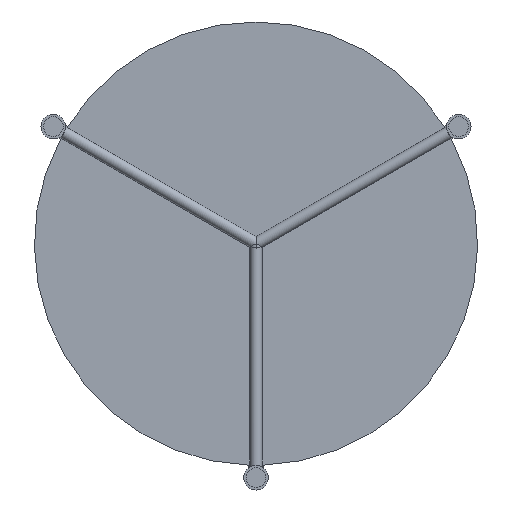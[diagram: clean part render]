
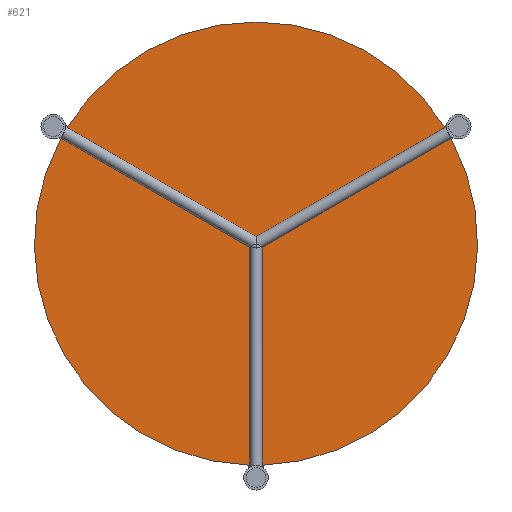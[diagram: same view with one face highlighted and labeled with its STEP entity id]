
A CAD part, front view. The second image highlights one B-rep face of the part: STEP entity #621.
In plain terms, the highlighted planar face has unit normal (0, -1, 0).
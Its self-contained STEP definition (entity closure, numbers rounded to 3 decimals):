
#41 = CARTESIAN_POINT ( 'NONE',  ( 6., 299., -179.9 ) ) ;
#67 = AXIS2_PLACEMENT_3D ( 'NONE', #803, #1219, #3503 ) ;
#222 = VERTEX_POINT ( 'NONE', #3713 ) ;
#263 = ORIENTED_EDGE ( 'NONE', *, *, #3867, .T. ) ;
#427 = CARTESIAN_POINT ( 'NONE',  ( 0., 299., 180. ) ) ;
#448 = CARTESIAN_POINT ( 'NONE',  ( -158.798, 299., 84.754 ) ) ;
#468 = AXIS2_PLACEMENT_3D ( 'NONE', #925, #3911, #1596 ) ;
#538 = VERTEX_POINT ( 'NONE', #1030 ) ;
#564 = EDGE_CURVE ( 'NONE', #4358, #538, #2099, .T. ) ;
#577 = LINE ( 'NONE', #1633, #1966 ) ;
#621 = ADVANCED_FACE ( 'NONE', ( #875 ), #1181, .T. ) ;
#680 = DIRECTION ( 'NONE',  ( 0., 0., -1. ) ) ;
#686 = ORIENTED_EDGE ( 'NONE', *, *, #2971, .T. ) ;
#745 = CARTESIAN_POINT ( 'NONE',  ( 0., 299., 0. ) ) ;
#752 = EDGE_CURVE ( 'NONE', #1416, #936, #1492, .T. ) ;
#757 = VECTOR ( 'NONE', #4320, 1000. ) ;
#767 = DIRECTION ( 'NONE',  ( 0., 0., -1. ) ) ;
#770 = ORIENTED_EDGE ( 'NONE', *, *, #2518, .T. ) ;
#803 = CARTESIAN_POINT ( 'NONE',  ( -164.605, 299., 95.035 ) ) ;
#861 = CIRCLE ( 'NONE', #2601, 10. ) ;
#875 = FACE_OUTER_BOUND ( 'NONE', #1877, .T. ) ;
#924 = CARTESIAN_POINT ( 'NONE',  ( 158.798, 299., 84.754 ) ) ;
#925 = CARTESIAN_POINT ( 'NONE',  ( 0., 299., 0. ) ) ;
#936 = VERTEX_POINT ( 'NONE', #2950 ) ;
#1030 = CARTESIAN_POINT ( 'NONE',  ( -152.798, 299., 95.146 ) ) ;
#1053 = LINE ( 'NONE', #41, #4075 ) ;
#1117 = DIRECTION ( 'NONE',  ( 0., -1., 0. ) ) ;
#1130 = VERTEX_POINT ( 'NONE', #1981 ) ;
#1136 = ORIENTED_EDGE ( 'NONE', *, *, #3944, .T. ) ;
#1181 = PLANE ( 'NONE',  #1964 ) ;
#1219 = DIRECTION ( 'NONE',  ( 0., 1., 0. ) ) ;
#1245 = DIRECTION ( 'NONE',  ( 0., -1., 0. ) ) ;
#1249 = CIRCLE ( 'NONE', #2007, 10. ) ;
#1346 = CARTESIAN_POINT ( 'NONE',  ( 0., 299., 0. ) ) ;
#1398 = LINE ( 'NONE', #2731, #2851 ) ;
#1416 = VERTEX_POINT ( 'NONE', #2768 ) ;
#1425 = EDGE_CURVE ( 'NONE', #222, #1130, #1892, .T. ) ;
#1492 = LINE ( 'NONE', #2819, #1609 ) ;
#1531 = ORIENTED_EDGE ( 'NONE', *, *, #3478, .T. ) ;
#1596 = DIRECTION ( 'NONE',  ( 0., 0., -1. ) ) ;
#1609 = VECTOR ( 'NONE', #2907, 1000. ) ;
#1633 = CARTESIAN_POINT ( 'NONE',  ( -6., 299., -190.07 ) ) ;
#1691 = DIRECTION ( 'NONE',  ( 0., 1., 0. ) ) ;
#1749 = AXIS2_PLACEMENT_3D ( 'NONE', #1346, #2075, #3069 ) ;
#1772 = ORIENTED_EDGE ( 'NONE', *, *, #3891, .T. ) ;
#1874 = EDGE_CURVE ( 'NONE', #3510, #2287, #577, .T. ) ;
#1877 = EDGE_LOOP ( 'NONE', ( #263, #4167, #1531, #3617, #3317, #1136, #770, #1772, #4025, #2993, #2542, #686, #3293 ) ) ;
#1878 = DIRECTION ( 'NONE',  ( 0., 0., -1. ) ) ;
#1880 = CARTESIAN_POINT ( 'NONE',  ( -6., 299., -182.07 ) ) ;
#1887 = DIRECTION ( 'NONE',  ( 0., 0., -1. ) ) ;
#1892 = CIRCLE ( 'NONE', #67, 10. ) ;
#1953 = VERTEX_POINT ( 'NONE', #924 ) ;
#1964 = AXIS2_PLACEMENT_3D ( 'NONE', #3840, #1245, #1878 ) ;
#1966 = VECTOR ( 'NONE', #1887, 1000. ) ;
#1971 = CARTESIAN_POINT ( 'NONE',  ( 0., 299., -190.07 ) ) ;
#1981 = CARTESIAN_POINT ( 'NONE',  ( -160.677, 299., 85.839 ) ) ;
#2007 = AXIS2_PLACEMENT_3D ( 'NONE', #1971, #2897, #3642 ) ;
#2075 = DIRECTION ( 'NONE',  ( 0., -1., 0. ) ) ;
#2099 = CIRCLE ( 'NONE', #1749, 180. ) ;
#2150 = CIRCLE ( 'NONE', #468, 180. ) ;
#2244 = AXIS2_PLACEMENT_3D ( 'NONE', #2466, #1117, #3422 ) ;
#2258 = LINE ( 'NONE', #4257, #757 ) ;
#2287 = VERTEX_POINT ( 'NONE', #1880 ) ;
#2304 = CARTESIAN_POINT ( 'NONE',  ( -158.798, 299., 84.754 ) ) ;
#2336 = CARTESIAN_POINT ( 'NONE',  ( 164.605, 299., 95.035 ) ) ;
#2389 = CARTESIAN_POINT ( 'NONE',  ( 6., 299., -182.07 ) ) ;
#2466 = CARTESIAN_POINT ( 'NONE',  ( 0., 299., 0. ) ) ;
#2518 = EDGE_CURVE ( 'NONE', #3745, #3421, #1053, .T. ) ;
#2542 = ORIENTED_EDGE ( 'NONE', *, *, #752, .T. ) ;
#2601 = AXIS2_PLACEMENT_3D ( 'NONE', #2336, #1691, #680 ) ;
#2614 = DIRECTION ( 'NONE',  ( 0.866, 0., -0.5 ) ) ;
#2654 = VERTEX_POINT ( 'NONE', #2803 ) ;
#2731 = CARTESIAN_POINT ( 'NONE',  ( 167.605, 299., 89.839 ) ) ;
#2768 = CARTESIAN_POINT ( 'NONE',  ( 154.677, 299., 96.231 ) ) ;
#2803 = CARTESIAN_POINT ( 'NONE',  ( 160.677, 299., 85.839 ) ) ;
#2819 = CARTESIAN_POINT ( 'NONE',  ( 152.798, 299., 95.146 ) ) ;
#2851 = VECTOR ( 'NONE', #4073, 1000. ) ;
#2897 = DIRECTION ( 'NONE',  ( 0., 1., 0. ) ) ;
#2907 = DIRECTION ( 'NONE',  ( -0.866, 0., -0.5 ) ) ;
#2950 = CARTESIAN_POINT ( 'NONE',  ( 152.798, 299., 95.146 ) ) ;
#2971 = EDGE_CURVE ( 'NONE', #936, #4358, #3449, .T. ) ;
#2982 = EDGE_CURVE ( 'NONE', #3405, #3510, #4151, .T. ) ;
#2993 = ORIENTED_EDGE ( 'NONE', *, *, #3269, .T. ) ;
#3006 = DIRECTION ( 'NONE',  ( 0., 0., 1. ) ) ;
#3069 = DIRECTION ( 'NONE',  ( 0., 0., -1. ) ) ;
#3269 = EDGE_CURVE ( 'NONE', #2654, #1416, #861, .T. ) ;
#3293 = ORIENTED_EDGE ( 'NONE', *, *, #564, .T. ) ;
#3317 = ORIENTED_EDGE ( 'NONE', *, *, #1874, .T. ) ;
#3405 = VERTEX_POINT ( 'NONE', #448 ) ;
#3418 = CARTESIAN_POINT ( 'NONE',  ( 6., 299., -179.9 ) ) ;
#3421 = VERTEX_POINT ( 'NONE', #3418 ) ;
#3422 = DIRECTION ( 'NONE',  ( 0., 0., -1. ) ) ;
#3449 = CIRCLE ( 'NONE', #3939, 180. ) ;
#3478 = EDGE_CURVE ( 'NONE', #1130, #3405, #4306, .T. ) ;
#3503 = DIRECTION ( 'NONE',  ( 0., 0., -1. ) ) ;
#3510 = VERTEX_POINT ( 'NONE', #3858 ) ;
#3617 = ORIENTED_EDGE ( 'NONE', *, *, #2982, .T. ) ;
#3642 = DIRECTION ( 'NONE',  ( 0., 0., -1. ) ) ;
#3713 = CARTESIAN_POINT ( 'NONE',  ( -154.677, 299., 96.231 ) ) ;
#3745 = VERTEX_POINT ( 'NONE', #2389 ) ;
#3770 = DIRECTION ( 'NONE',  ( 0., -1., 0. ) ) ;
#3840 = CARTESIAN_POINT ( 'NONE',  ( 0., 299., 0. ) ) ;
#3858 = CARTESIAN_POINT ( 'NONE',  ( -6., 299., -179.9 ) ) ;
#3867 = EDGE_CURVE ( 'NONE', #538, #222, #2258, .T. ) ;
#3891 = EDGE_CURVE ( 'NONE', #3421, #1953, #2150, .T. ) ;
#3911 = DIRECTION ( 'NONE',  ( 0., -1., 0. ) ) ;
#3939 = AXIS2_PLACEMENT_3D ( 'NONE', #745, #3770, #767 ) ;
#3944 = EDGE_CURVE ( 'NONE', #2287, #3745, #1249, .T. ) ;
#4006 = VECTOR ( 'NONE', #2614, 1000. ) ;
#4025 = ORIENTED_EDGE ( 'NONE', *, *, #4231, .T. ) ;
#4073 = DIRECTION ( 'NONE',  ( 0.866, 0., 0.5 ) ) ;
#4075 = VECTOR ( 'NONE', #3006, 1000. ) ;
#4151 = CIRCLE ( 'NONE', #2244, 180. ) ;
#4167 = ORIENTED_EDGE ( 'NONE', *, *, #1425, .T. ) ;
#4231 = EDGE_CURVE ( 'NONE', #1953, #2654, #1398, .T. ) ;
#4257 = CARTESIAN_POINT ( 'NONE',  ( -161.605, 299., 100.231 ) ) ;
#4306 = LINE ( 'NONE', #2304, #4006 ) ;
#4320 = DIRECTION ( 'NONE',  ( -0.866, 0., 0.5 ) ) ;
#4358 = VERTEX_POINT ( 'NONE', #427 ) ;
